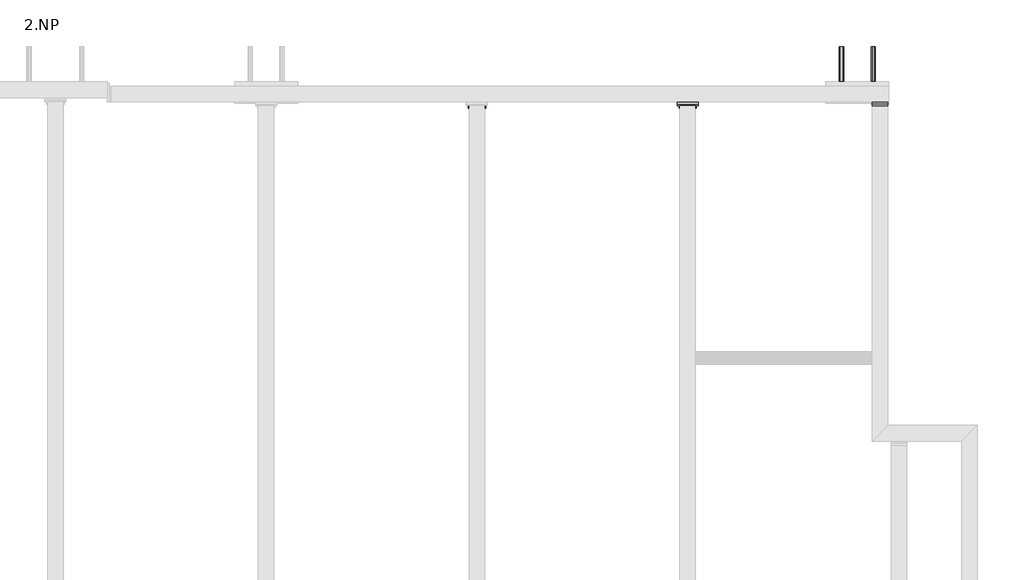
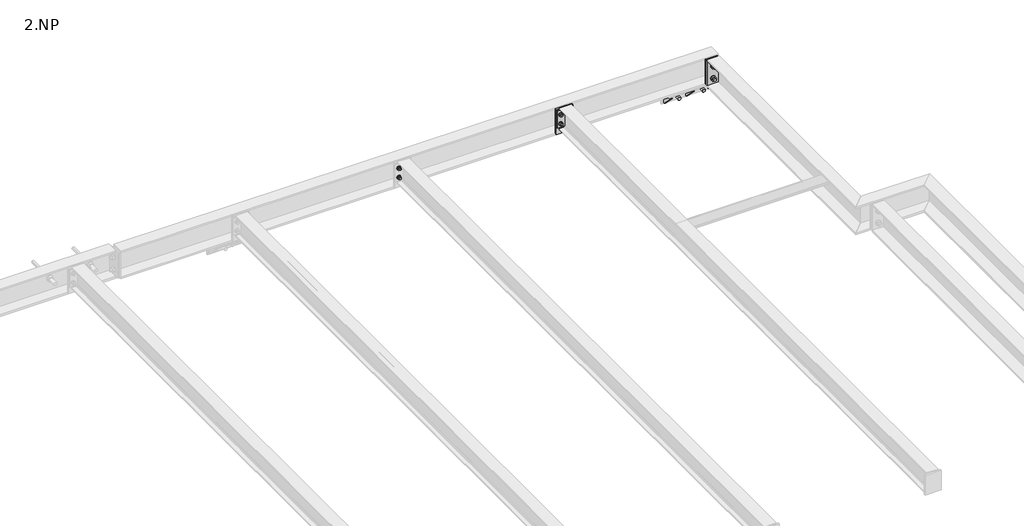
# One storey, part 15 of 18: 13 proxies.
"""IFC4 building model written with IfcOpenShell, lengths in millimetres."""

from ifc_helpers import new_model, si_unit, point, frame, frame_2d, origin, place, context, project, spatial, polyline, circle_curve, trimmed, segment, composite_curve, outline, extrude, element, save

model = new_model("IFC4")

# Units and contexts
model_context = context("Model", 3, world=origin())
ifc_project = project(units=[si_unit("LENGTHUNIT", "METRE", prefix="MILLI")], contexts=[model_context])

# Site, building, storey
site = spatial("IfcSite", under=ifc_project)
building = spatial("IfcBuilding", under=site)
storey = spatial("IfcBuildingStorey", under=building, Name="2.NP", Elevation=3000.0)

# Proxies
placement = place(None, origin())
element("IfcBuildingElementProxy", 1, Name="PLECH", ObjectType="PLECH", at=placement, inside=storey, context=model_context, shape_type="SweptSolid", body=[
    extrude(outline(polyline([(15000.0, 3755.0), (15100.0, 3755.0), (15100.0, 3747.0), (15000.0, 3747.0), (15000.0, 3755.0)])), frame((0.0, 0.0, 3175.0), z_axis=(0.0, 0.0, 1.0), x_axis=(1.0, 0.0, 0.0)), (0.0, 0.0, 1.0), 110.0),
])
element("IfcBuildingElementProxy", 2, Name="PLECH", ObjectType="PLECH", at=placement, inside=storey, context=model_context, shape_type="SweptSolid", body=[
    extrude(outline(polyline([(15925.0, 3755.0), (16000.0, 3755.0), (16000.0, 3745.0), (15925.0, 3745.0), (15925.0, 3755.0)])), frame((0.0, 0.0, 3130.0), z_axis=(0.0, 0.0, 1.0), x_axis=(1.0, 0.0, 0.0)), (0.0, 0.0, 1.0), 160.0),
])
element("IfcBuildingElementProxy", 3, Name="PLECH", ObjectType="PLECH", at=placement, inside=storey, context=model_context, shape_type="SweptSolid", body=[
    extrude(outline(composite_curve([segment(polyline([(3770.0, 3110.0), (3835.0, 3110.0)]), True, "CONTINUOUS"), segment(trimmed(circle_curve(frame_2d((3850.0, 3110.0)), 15.0), [point((3835.0, 3110.0))], [point((3850.0, 3095.0))], True, "CARTESIAN"), True, "CONTINUOUS"), segment(polyline([(3850.0, 3095.0), (3850.0, 3030.0), (3840.0, 3030.0), (3770.0, 3100.0), (3770.0, 3110.0)]), True, "CONTINUOUS")], self_intersect=False)), frame((15715.0, 0.0, 0.0), z_axis=(1.0, 0.0, 0.0), x_axis=(0.0, 1.0, 0.0)), (0.0, 0.0, 1.0), 8.0),
])
element("IfcBuildingElementProxy", 4, Name="PLECH", ObjectType="PLECH", at=placement, inside=storey, context=model_context, shape_type="SweptSolid", body=[
    extrude(outline(composite_curve([segment(polyline([(3770.0, 3110.0), (3835.0, 3110.0)]), True, "CONTINUOUS"), segment(trimmed(circle_curve(frame_2d((3850.0, 3110.0)), 15.0), [point((3835.0, 3110.0))], [point((3850.0, 3095.0))], True, "CARTESIAN"), True, "CONTINUOUS"), segment(polyline([(3850.0, 3095.0), (3850.0, 3030.0), (3840.0, 3030.0), (3770.0, 3100.0), (3770.0, 3110.0)]), True, "CONTINUOUS")], self_intersect=False)), frame((15987.0, 0.0, 0.0), z_axis=(1.0, 0.0, 0.0), x_axis=(0.0, 1.0, 0.0)), (0.0, 0.0, 1.0), 8.0),
])
element("IfcBuildingElementProxy", 5, Name="PLECH", ObjectType="PLECH", at=placement, inside=storey, context=model_context, shape_type="SweptSolid", body=[
    extrude(outline(composite_curve([segment(polyline([(3770.0, 3110.0), (3835.0, 3110.0)]), True, "CONTINUOUS"), segment(trimmed(circle_curve(frame_2d((3850.0, 3110.0)), 15.0), [point((3835.0, 3110.0))], [point((3850.0, 3095.0))], True, "CARTESIAN"), True, "CONTINUOUS"), segment(polyline([(3850.0, 3095.0), (3850.0, 3030.0), (3840.0, 3030.0), (3770.0, 3100.0), (3770.0, 3110.0)]), True, "CONTINUOUS")], self_intersect=False)), frame((15851.0, 0.0, 0.0), z_axis=(1.0, 0.0, 0.0), x_axis=(0.0, 1.0, 0.0)), (0.0, 0.0, 1.0), 8.0),
])
element("IfcBuildingElementProxy", 6, Name="PLECH", ObjectType="PLECH", at=placement, inside=storey, context=model_context, shape_type="SweptSolid", body=[
    extrude(outline(polyline([(15000.0, 3765.0), (15100.0, 3765.0), (15100.0, 3755.0), (15000.0, 3755.0), (15000.0, 3765.0)])), frame((0.0, 0.0, 3128.0), z_axis=(0.0, 0.0, 1.0), x_axis=(1.0, 0.0, 0.0)), (0.0, 0.0, 1.0), 164.0),
])
element("IfcBuildingElementProxy", 7, Name="PLECH", ObjectType="PLECH", at=placement, inside=storey, context=model_context, shape_type="SweptSolid", body=[
    extrude(outline(composite_curve([segment(polyline([(3765.0, 3289.5), (3814.5, 3289.5)]), True, "CONTINUOUS"), segment(trimmed(circle_curve(frame_2d((3834.5, 3289.5)), 20.0), [point((3814.5, 3289.5))], [point((3834.5, 3269.5))], True, "CARTESIAN"), True, "CONTINUOUS"), segment(polyline([(3834.5, 3269.5), (3834.5, 3150.5)]), True, "CONTINUOUS"), segment(trimmed(circle_curve(frame_2d((3834.5, 3130.5)), 20.0), [point((3834.5, 3150.5))], [point((3814.5, 3130.5))], True, "CARTESIAN"), True, "CONTINUOUS"), segment(polyline([(3814.5, 3130.5), (3765.0, 3130.5), (3765.0, 3289.5)]), True, "CONTINUOUS")], self_intersect=False)), frame((15047.0, 0.0, 0.0), z_axis=(1.0, 0.0, 0.0), x_axis=(0.0, 1.0, 0.0)), (0.0, 0.0, 1.0), 6.0),
])
element("IfcBuildingElementProxy", 8, Name="PLECH", ObjectType="PLECH", at=placement, inside=storey, context=model_context, shape_type="SweptSolid", body=[
    extrude(outline(polyline([(15925.0, 3765.0), (16000.0, 3765.0), (16000.0, 3755.0), (15925.0, 3755.0), (15925.0, 3765.0)])), frame((0.0, 0.0, 3130.0), z_axis=(0.0, 0.0, 1.0), x_axis=(1.0, 0.0, 0.0)), (0.0, 0.0, 1.0), 160.0),
])
element("IfcBuildingElementProxy", 9, Name="PLECH", ObjectType="PLECH", at=placement, inside=storey, context=model_context, shape_type="SweptSolid", body=[
    extrude(outline(composite_curve([segment(polyline([(3765.0, 3289.5), (3814.5, 3289.5)]), True, "CONTINUOUS"), segment(trimmed(circle_curve(frame_2d((3834.5, 3289.5)), 20.0), [point((3814.5, 3289.5))], [point((3834.5, 3269.5))], True, "CARTESIAN"), True, "CONTINUOUS"), segment(polyline([(3834.5, 3269.5), (3834.5, 3150.5)]), True, "CONTINUOUS"), segment(trimmed(circle_curve(frame_2d((3834.5, 3130.5)), 20.0), [point((3834.5, 3150.5))], [point((3814.5, 3130.5))], True, "CARTESIAN"), True, "CONTINUOUS"), segment(polyline([(3814.5, 3130.5), (3765.0, 3130.5), (3765.0, 3289.5)]), True, "CONTINUOUS")], self_intersect=False)), frame((15986.5, 0.0, 0.0), z_axis=(1.0, 0.0, 0.0), x_axis=(0.0, 1.0, 0.0)), (0.0, 0.0, 1.0), 8.0),
])
element("IfcBuildingElementProxy", 10, Name="Bolt assembly", ObjectType="Bolt assembly", at=placement, inside=storey, context=model_context, shape_type="SweptSolid", body=[
    extrude(outline(polyline([(3070.0, 15789.8149546), (3078.5, 15784.9074773), (3078.5, 15775.0925227), (3070.0, 15770.1850454), (3061.5, 15775.0925227), (3061.5, 15784.9074773), (3070.0, 15789.8149546)])), frame((0.0, 3860.0, 0.0), z_axis=(0.0, 1.0, 0.0), x_axis=(0.0, 0.0, 1.0)), (0.0, 0.0, 1.0), 168.0),
    extrude(outline(composite_curve([segment(trimmed(circle_curve(frame_2d((3070.0, 15780.0)), 10.0), [point((3070.0, 15790.0))], [point((3070.0, 15770.0))], False, "CARTESIAN"), True, "CONTINUOUS"), segment(trimmed(circle_curve(frame_2d((3070.0, 15780.0)), 10.0), [point((3070.0, 15770.0))], [point((3070.0, 15790.0))], False, "CARTESIAN"), True, "CONTINUOUS")], self_intersect=False)), frame((0.0, 3788.0, 0.0), z_axis=(0.0, 1.0, 0.0), x_axis=(0.0, 0.0, 1.0)), (0.0, 0.0, 1.0), 72.0),
    extrude(outline(composite_curve([segment(trimmed(circle_curve(frame_2d((3070.0, 15780.0)), 18.5), [point((3070.0, 15798.5))], [point((3070.0, 15761.5))], False, "CARTESIAN"), True, "CONTINUOUS"), segment(trimmed(circle_curve(frame_2d((3070.0, 15780.0)), 18.5), [point((3070.0, 15761.5))], [point((3070.0, 15798.5))], False, "CARTESIAN"), True, "CONTINUOUS")], self_intersect=False)), frame((0.0, 3847.0, 0.0), z_axis=(0.0, 1.0, 0.0), x_axis=(0.0, 0.0, 1.0)), (0.0, 0.0, 1.0), 3.0),
    extrude(outline(polyline([(3070.0, 15797.3205081), (3085.0, 15788.660254), (3085.0, 15771.339746), (3070.0, 15762.6794919), (3055.0, 15771.339746), (3055.0, 15788.660254), (3070.0, 15797.3205081)])), frame((0.0, 3831.0, 0.0), z_axis=(0.0, 1.0, 0.0), x_axis=(0.0, 0.0, 1.0)), (0.0, 0.0, 1.0), 16.0),
    extrude(outline(composite_curve([segment(trimmed(circle_curve(frame_2d((3070.0, 15780.0)), 11.0), [point((3070.0, 15791.0))], [point((3070.0, 15769.0))], False, "CARTESIAN"), True, "CONTINUOUS"), segment(trimmed(circle_curve(frame_2d((3070.0, 15780.0)), 11.0), [point((3070.0, 15769.0))], [point((3070.0, 15791.0))], False, "CARTESIAN"), True, "CONTINUOUS")], self_intersect=False)), frame((0.0, 3849.9, 0.0), z_axis=(0.0, 1.0, 0.0), x_axis=(0.0, 0.0, 1.0)), (0.0, 0.0, 1.0), 10.1),
    extrude(outline(polyline([(3070.0, 15939.8149546), (3078.5, 15934.9074773), (3078.5, 15925.0925227), (3070.0, 15920.1850454), (3061.5, 15925.0925227), (3061.5, 15934.9074773), (3070.0, 15939.8149546)])), frame((0.0, 3860.0, 0.0), z_axis=(0.0, 1.0, 0.0), x_axis=(0.0, 0.0, 1.0)), (0.0, 0.0, 1.0), 168.0),
    extrude(outline(composite_curve([segment(trimmed(circle_curve(frame_2d((3070.0, 15930.0)), 10.0), [point((3070.0, 15940.0))], [point((3070.0, 15920.0))], False, "CARTESIAN"), True, "CONTINUOUS"), segment(trimmed(circle_curve(frame_2d((3070.0, 15930.0)), 10.0), [point((3070.0, 15920.0))], [point((3070.0, 15940.0))], False, "CARTESIAN"), True, "CONTINUOUS")], self_intersect=False)), frame((0.0, 3788.0, 0.0), z_axis=(0.0, 1.0, 0.0), x_axis=(0.0, 0.0, 1.0)), (0.0, 0.0, 1.0), 72.0),
    extrude(outline(composite_curve([segment(trimmed(circle_curve(frame_2d((3070.0, 15930.0)), 18.5), [point((3070.0, 15948.5))], [point((3070.0, 15911.5))], False, "CARTESIAN"), True, "CONTINUOUS"), segment(trimmed(circle_curve(frame_2d((3070.0, 15930.0)), 18.5), [point((3070.0, 15911.5))], [point((3070.0, 15948.5))], False, "CARTESIAN"), True, "CONTINUOUS")], self_intersect=False)), frame((0.0, 3847.0, 0.0), z_axis=(0.0, 1.0, 0.0), x_axis=(0.0, 0.0, 1.0)), (0.0, 0.0, 1.0), 3.0),
    extrude(outline(polyline([(3070.0, 15947.3205081), (3085.0, 15938.660254), (3085.0, 15921.339746), (3070.0, 15912.6794919), (3055.0, 15921.339746), (3055.0, 15938.660254), (3070.0, 15947.3205081)])), frame((0.0, 3831.0, 0.0), z_axis=(0.0, 1.0, 0.0), x_axis=(0.0, 0.0, 1.0)), (0.0, 0.0, 1.0), 16.0),
    extrude(outline(composite_curve([segment(trimmed(circle_curve(frame_2d((3070.0, 15930.0)), 11.0), [point((3070.0, 15941.0))], [point((3070.0, 15919.0))], False, "CARTESIAN"), True, "CONTINUOUS"), segment(trimmed(circle_curve(frame_2d((3070.0, 15930.0)), 11.0), [point((3070.0, 15919.0))], [point((3070.0, 15941.0))], False, "CARTESIAN"), True, "CONTINUOUS")], self_intersect=False)), frame((0.0, 3849.9, 0.0), z_axis=(0.0, 1.0, 0.0), x_axis=(0.0, 0.0, 1.0)), (0.0, 0.0, 1.0), 10.1),
])
element("IfcBuildingElementProxy", 11, Name="Bolt assembly", ObjectType="Bolt assembly", at=placement, inside=storey, context=model_context, shape_type="SweptSolid", body=[
    extrude(outline(composite_curve([segment(trimmed(circle_curve(frame_2d((3260.0, 14020.0)), 6.5), [point((3260.0, 14026.5))], [point((3260.0, 14013.5))], False, "CARTESIAN"), True, "CONTINUOUS"), segment(trimmed(circle_curve(frame_2d((3260.0, 14020.0)), 6.5), [point((3260.0, 14013.5))], [point((3260.0, 14026.5))], False, "CARTESIAN"), True, "CONTINUOUS")], self_intersect=False)), frame((0.0, 3754.9, 0.0), z_axis=(0.0, 1.0, 0.0), x_axis=(0.0, 0.0, 1.0)), (0.0, 0.0, 1.0), 10.0),
    extrude(outline(polyline([(3260.0, 14030.9696551), (3269.5, 14025.4848276), (3269.5, 14014.5151724), (3260.0, 14009.0303449), (3250.5, 14014.5151724), (3250.5, 14025.4848276), (3260.0, 14030.9696551)])), frame((0.0, 3767.5, 0.0), z_axis=(0.0, 1.0, 0.0), x_axis=(0.0, 0.0, 1.0)), (0.0, 0.0, 1.0), 7.5),
    extrude(outline(composite_curve([segment(trimmed(circle_curve(frame_2d((3260.0, 14020.0)), 6.0), [point((3260.0, 14026.0))], [point((3260.0, 14014.0))], False, "CARTESIAN"), True, "CONTINUOUS"), segment(trimmed(circle_curve(frame_2d((3260.0, 14020.0)), 6.0), [point((3260.0, 14014.0))], [point((3260.0, 14026.0))], False, "CARTESIAN"), True, "CONTINUOUS")], self_intersect=False)), frame((0.0, 3727.5, 0.0), z_axis=(0.0, 1.0, 0.0), x_axis=(0.0, 0.0, 1.0)), (0.0, 0.0, 1.0), 40.0),
    extrude(outline(composite_curve([segment(trimmed(circle_curve(frame_2d((3260.0, 14020.0)), 12.0), [point((3260.0, 14032.0))], [point((3260.0, 14008.0))], False, "CARTESIAN"), True, "CONTINUOUS"), segment(trimmed(circle_curve(frame_2d((3260.0, 14020.0)), 12.0), [point((3260.0, 14008.0))], [point((3260.0, 14032.0))], False, "CARTESIAN"), True, "CONTINUOUS")], self_intersect=False)), frame((0.0, 3765.0, 0.0), z_axis=(0.0, 1.0, 0.0), x_axis=(0.0, 0.0, 1.0)), (0.0, 0.0, 1.0), 2.5),
    extrude(outline(composite_curve([segment(trimmed(circle_curve(frame_2d((3260.0, 14020.0)), 12.0), [point((3260.0, 14032.0))], [point((3260.0, 14008.0))], False, "CARTESIAN"), True, "CONTINUOUS"), segment(trimmed(circle_curve(frame_2d((3260.0, 14020.0)), 12.0), [point((3260.0, 14008.0))], [point((3260.0, 14032.0))], False, "CARTESIAN"), True, "CONTINUOUS")], self_intersect=False)), frame((0.0, 3744.5, 0.0), z_axis=(0.0, 1.0, 0.0), x_axis=(0.0, 0.0, 1.0)), (0.0, 0.0, 1.0), 2.5),
    extrude(outline(polyline([(3260.0, 14030.9696551), (3269.5, 14025.4848276), (3269.5, 14014.5151724), (3260.0, 14009.0303449), (3250.5, 14014.5151724), (3250.5, 14025.4848276), (3260.0, 14030.9696551)])), frame((0.0, 3734.5, 0.0), z_axis=(0.0, 1.0, 0.0), x_axis=(0.0, 0.0, 1.0)), (0.0, 0.0, 1.0), 10.0),
    extrude(outline(composite_curve([segment(trimmed(circle_curve(frame_2d((3260.0, 14020.0)), 6.5), [point((3260.0, 14026.5))], [point((3260.0, 14013.5))], False, "CARTESIAN"), True, "CONTINUOUS"), segment(trimmed(circle_curve(frame_2d((3260.0, 14020.0)), 6.5), [point((3260.0, 14013.5))], [point((3260.0, 14026.5))], False, "CARTESIAN"), True, "CONTINUOUS")], self_intersect=False)), frame((0.0, 3747.0, 0.0), z_axis=(0.0, 1.0, 0.0), x_axis=(0.0, 0.0, 1.0)), (0.0, 0.0, 1.0), 8.1),
    extrude(outline(composite_curve([segment(trimmed(circle_curve(frame_2d((3260.0, 14080.0)), 6.5), [point((3260.0, 14086.5))], [point((3260.0, 14073.5))], False, "CARTESIAN"), True, "CONTINUOUS"), segment(trimmed(circle_curve(frame_2d((3260.0, 14080.0)), 6.5), [point((3260.0, 14073.5))], [point((3260.0, 14086.5))], False, "CARTESIAN"), True, "CONTINUOUS")], self_intersect=False)), frame((0.0, 3754.9, 0.0), z_axis=(0.0, 1.0, 0.0), x_axis=(0.0, 0.0, 1.0)), (0.0, 0.0, 1.0), 10.0),
    extrude(outline(polyline([(3260.0, 14090.9696551), (3269.5, 14085.4848276), (3269.5, 14074.5151724), (3260.0, 14069.0303449), (3250.5, 14074.5151724), (3250.5, 14085.4848276), (3260.0, 14090.9696551)])), frame((0.0, 3767.5, 0.0), z_axis=(0.0, 1.0, 0.0), x_axis=(0.0, 0.0, 1.0)), (0.0, 0.0, 1.0), 7.5),
    extrude(outline(composite_curve([segment(trimmed(circle_curve(frame_2d((3260.0, 14080.0)), 6.0), [point((3260.0, 14086.0))], [point((3260.0, 14074.0))], False, "CARTESIAN"), True, "CONTINUOUS"), segment(trimmed(circle_curve(frame_2d((3260.0, 14080.0)), 6.0), [point((3260.0, 14074.0))], [point((3260.0, 14086.0))], False, "CARTESIAN"), True, "CONTINUOUS")], self_intersect=False)), frame((0.0, 3727.5, 0.0), z_axis=(0.0, 1.0, 0.0), x_axis=(0.0, 0.0, 1.0)), (0.0, 0.0, 1.0), 40.0),
    extrude(outline(composite_curve([segment(trimmed(circle_curve(frame_2d((3260.0, 14080.0)), 12.0), [point((3260.0, 14092.0))], [point((3260.0, 14068.0))], False, "CARTESIAN"), True, "CONTINUOUS"), segment(trimmed(circle_curve(frame_2d((3260.0, 14080.0)), 12.0), [point((3260.0, 14068.0))], [point((3260.0, 14092.0))], False, "CARTESIAN"), True, "CONTINUOUS")], self_intersect=False)), frame((0.0, 3765.0, 0.0), z_axis=(0.0, 1.0, 0.0), x_axis=(0.0, 0.0, 1.0)), (0.0, 0.0, 1.0), 2.5),
    extrude(outline(composite_curve([segment(trimmed(circle_curve(frame_2d((3260.0, 14080.0)), 12.0), [point((3260.0, 14092.0))], [point((3260.0, 14068.0))], False, "CARTESIAN"), True, "CONTINUOUS"), segment(trimmed(circle_curve(frame_2d((3260.0, 14080.0)), 12.0), [point((3260.0, 14068.0))], [point((3260.0, 14092.0))], False, "CARTESIAN"), True, "CONTINUOUS")], self_intersect=False)), frame((0.0, 3744.5, 0.0), z_axis=(0.0, 1.0, 0.0), x_axis=(0.0, 0.0, 1.0)), (0.0, 0.0, 1.0), 2.5),
    extrude(outline(polyline([(3260.0, 14090.9696551), (3269.5, 14085.4848276), (3269.5, 14074.5151724), (3260.0, 14069.0303449), (3250.5, 14074.5151724), (3250.5, 14085.4848276), (3260.0, 14090.9696551)])), frame((0.0, 3734.5, 0.0), z_axis=(0.0, 1.0, 0.0), x_axis=(0.0, 0.0, 1.0)), (0.0, 0.0, 1.0), 10.0),
    extrude(outline(composite_curve([segment(trimmed(circle_curve(frame_2d((3260.0, 14080.0)), 6.5), [point((3260.0, 14086.5))], [point((3260.0, 14073.5))], False, "CARTESIAN"), True, "CONTINUOUS"), segment(trimmed(circle_curve(frame_2d((3260.0, 14080.0)), 6.5), [point((3260.0, 14073.5))], [point((3260.0, 14086.5))], False, "CARTESIAN"), True, "CONTINUOUS")], self_intersect=False)), frame((0.0, 3747.0, 0.0), z_axis=(0.0, 1.0, 0.0), x_axis=(0.0, 0.0, 1.0)), (0.0, 0.0, 1.0), 8.1),
    extrude(outline(composite_curve([segment(trimmed(circle_curve(frame_2d((3200.0, 14020.0)), 6.5), [point((3200.0, 14026.5))], [point((3200.0, 14013.5))], False, "CARTESIAN"), True, "CONTINUOUS"), segment(trimmed(circle_curve(frame_2d((3200.0, 14020.0)), 6.5), [point((3200.0, 14013.5))], [point((3200.0, 14026.5))], False, "CARTESIAN"), True, "CONTINUOUS")], self_intersect=False)), frame((0.0, 3754.9, 0.0), z_axis=(0.0, 1.0, 0.0), x_axis=(0.0, 0.0, 1.0)), (0.0, 0.0, 1.0), 10.0),
    extrude(outline(polyline([(3200.0, 14030.9696551), (3209.5, 14025.4848276), (3209.5, 14014.5151724), (3200.0, 14009.0303449), (3190.5, 14014.5151724), (3190.5, 14025.4848276), (3200.0, 14030.9696551)])), frame((0.0, 3767.5, 0.0), z_axis=(0.0, 1.0, 0.0), x_axis=(0.0, 0.0, 1.0)), (0.0, 0.0, 1.0), 7.5),
    extrude(outline(composite_curve([segment(trimmed(circle_curve(frame_2d((3200.0, 14020.0)), 6.0), [point((3200.0, 14026.0))], [point((3200.0, 14014.0))], False, "CARTESIAN"), True, "CONTINUOUS"), segment(trimmed(circle_curve(frame_2d((3200.0, 14020.0)), 6.0), [point((3200.0, 14014.0))], [point((3200.0, 14026.0))], False, "CARTESIAN"), True, "CONTINUOUS")], self_intersect=False)), frame((0.0, 3727.5, 0.0), z_axis=(0.0, 1.0, 0.0), x_axis=(0.0, 0.0, 1.0)), (0.0, 0.0, 1.0), 40.0),
    extrude(outline(composite_curve([segment(trimmed(circle_curve(frame_2d((3200.0, 14020.0)), 12.0), [point((3200.0, 14032.0))], [point((3200.0, 14008.0))], False, "CARTESIAN"), True, "CONTINUOUS"), segment(trimmed(circle_curve(frame_2d((3200.0, 14020.0)), 12.0), [point((3200.0, 14008.0))], [point((3200.0, 14032.0))], False, "CARTESIAN"), True, "CONTINUOUS")], self_intersect=False)), frame((0.0, 3765.0, 0.0), z_axis=(0.0, 1.0, 0.0), x_axis=(0.0, 0.0, 1.0)), (0.0, 0.0, 1.0), 2.5),
    extrude(outline(composite_curve([segment(trimmed(circle_curve(frame_2d((3200.0, 14020.0)), 12.0), [point((3200.0, 14032.0))], [point((3200.0, 14008.0))], False, "CARTESIAN"), True, "CONTINUOUS"), segment(trimmed(circle_curve(frame_2d((3200.0, 14020.0)), 12.0), [point((3200.0, 14008.0))], [point((3200.0, 14032.0))], False, "CARTESIAN"), True, "CONTINUOUS")], self_intersect=False)), frame((0.0, 3744.5, 0.0), z_axis=(0.0, 1.0, 0.0), x_axis=(0.0, 0.0, 1.0)), (0.0, 0.0, 1.0), 2.5),
    extrude(outline(polyline([(3200.0, 14030.9696551), (3209.5, 14025.4848276), (3209.5, 14014.5151724), (3200.0, 14009.0303449), (3190.5, 14014.5151724), (3190.5, 14025.4848276), (3200.0, 14030.9696551)])), frame((0.0, 3734.5, 0.0), z_axis=(0.0, 1.0, 0.0), x_axis=(0.0, 0.0, 1.0)), (0.0, 0.0, 1.0), 10.0),
    extrude(outline(composite_curve([segment(trimmed(circle_curve(frame_2d((3200.0, 14020.0)), 6.5), [point((3200.0, 14026.5))], [point((3200.0, 14013.5))], False, "CARTESIAN"), True, "CONTINUOUS"), segment(trimmed(circle_curve(frame_2d((3200.0, 14020.0)), 6.5), [point((3200.0, 14013.5))], [point((3200.0, 14026.5))], False, "CARTESIAN"), True, "CONTINUOUS")], self_intersect=False)), frame((0.0, 3747.0, 0.0), z_axis=(0.0, 1.0, 0.0), x_axis=(0.0, 0.0, 1.0)), (0.0, 0.0, 1.0), 8.1),
    extrude(outline(composite_curve([segment(trimmed(circle_curve(frame_2d((3200.0, 14080.0)), 6.5), [point((3200.0, 14086.5))], [point((3200.0, 14073.5))], False, "CARTESIAN"), True, "CONTINUOUS"), segment(trimmed(circle_curve(frame_2d((3200.0, 14080.0)), 6.5), [point((3200.0, 14073.5))], [point((3200.0, 14086.5))], False, "CARTESIAN"), True, "CONTINUOUS")], self_intersect=False)), frame((0.0, 3754.9, 0.0), z_axis=(0.0, 1.0, 0.0), x_axis=(0.0, 0.0, 1.0)), (0.0, 0.0, 1.0), 10.0),
    extrude(outline(polyline([(3200.0, 14090.9696551), (3209.5, 14085.4848276), (3209.5, 14074.5151724), (3200.0, 14069.0303449), (3190.5, 14074.5151724), (3190.5, 14085.4848276), (3200.0, 14090.9696551)])), frame((0.0, 3767.5, 0.0), z_axis=(0.0, 1.0, 0.0), x_axis=(0.0, 0.0, 1.0)), (0.0, 0.0, 1.0), 7.5),
    extrude(outline(composite_curve([segment(trimmed(circle_curve(frame_2d((3200.0, 14080.0)), 6.0), [point((3200.0, 14086.0))], [point((3200.0, 14074.0))], False, "CARTESIAN"), True, "CONTINUOUS"), segment(trimmed(circle_curve(frame_2d((3200.0, 14080.0)), 6.0), [point((3200.0, 14074.0))], [point((3200.0, 14086.0))], False, "CARTESIAN"), True, "CONTINUOUS")], self_intersect=False)), frame((0.0, 3727.5, 0.0), z_axis=(0.0, 1.0, 0.0), x_axis=(0.0, 0.0, 1.0)), (0.0, 0.0, 1.0), 40.0),
    extrude(outline(composite_curve([segment(trimmed(circle_curve(frame_2d((3200.0, 14080.0)), 12.0), [point((3200.0, 14092.0))], [point((3200.0, 14068.0))], False, "CARTESIAN"), True, "CONTINUOUS"), segment(trimmed(circle_curve(frame_2d((3200.0, 14080.0)), 12.0), [point((3200.0, 14068.0))], [point((3200.0, 14092.0))], False, "CARTESIAN"), True, "CONTINUOUS")], self_intersect=False)), frame((0.0, 3765.0, 0.0), z_axis=(0.0, 1.0, 0.0), x_axis=(0.0, 0.0, 1.0)), (0.0, 0.0, 1.0), 2.5),
    extrude(outline(composite_curve([segment(trimmed(circle_curve(frame_2d((3200.0, 14080.0)), 12.0), [point((3200.0, 14092.0))], [point((3200.0, 14068.0))], False, "CARTESIAN"), True, "CONTINUOUS"), segment(trimmed(circle_curve(frame_2d((3200.0, 14080.0)), 12.0), [point((3200.0, 14068.0))], [point((3200.0, 14092.0))], False, "CARTESIAN"), True, "CONTINUOUS")], self_intersect=False)), frame((0.0, 3744.5, 0.0), z_axis=(0.0, 1.0, 0.0), x_axis=(0.0, 0.0, 1.0)), (0.0, 0.0, 1.0), 2.5),
    extrude(outline(polyline([(3200.0, 14090.9696551), (3209.5, 14085.4848276), (3209.5, 14074.5151724), (3200.0, 14069.0303449), (3190.5, 14074.5151724), (3190.5, 14085.4848276), (3200.0, 14090.9696551)])), frame((0.0, 3734.5, 0.0), z_axis=(0.0, 1.0, 0.0), x_axis=(0.0, 0.0, 1.0)), (0.0, 0.0, 1.0), 10.0),
    extrude(outline(composite_curve([segment(trimmed(circle_curve(frame_2d((3200.0, 14080.0)), 6.5), [point((3200.0, 14086.5))], [point((3200.0, 14073.5))], False, "CARTESIAN"), True, "CONTINUOUS"), segment(trimmed(circle_curve(frame_2d((3200.0, 14080.0)), 6.5), [point((3200.0, 14073.5))], [point((3200.0, 14086.5))], False, "CARTESIAN"), True, "CONTINUOUS")], self_intersect=False)), frame((0.0, 3747.0, 0.0), z_axis=(0.0, 1.0, 0.0), x_axis=(0.0, 0.0, 1.0)), (0.0, 0.0, 1.0), 8.1),
])
element("IfcBuildingElementProxy", 12, Name="Bolt assembly", ObjectType="Bolt assembly", at=placement, inside=storey, context=model_context, shape_type="SweptSolid", body=[
    extrude(outline(composite_curve([segment(trimmed(circle_curve(frame_2d((3260.0, 15020.0)), 6.5), [point((3260.0, 15026.5))], [point((3260.0, 15013.5))], False, "CARTESIAN"), True, "CONTINUOUS"), segment(trimmed(circle_curve(frame_2d((3260.0, 15020.0)), 6.5), [point((3260.0, 15013.5))], [point((3260.0, 15026.5))], False, "CARTESIAN"), True, "CONTINUOUS")], self_intersect=False)), frame((0.0, 3754.9, 0.0), z_axis=(0.0, 1.0, 0.0), x_axis=(0.0, 0.0, 1.0)), (0.0, 0.0, 1.0), 10.0),
    extrude(outline(polyline([(3260.0, 15030.9696551), (3269.5, 15025.4848276), (3269.5, 15014.5151724), (3260.0, 15009.0303449), (3250.5, 15014.5151724), (3250.5, 15025.4848276), (3260.0, 15030.9696551)])), frame((0.0, 3767.5, 0.0), z_axis=(0.0, 1.0, 0.0), x_axis=(0.0, 0.0, 1.0)), (0.0, 0.0, 1.0), 7.5),
    extrude(outline(composite_curve([segment(trimmed(circle_curve(frame_2d((3260.0, 15020.0)), 6.0), [point((3260.0, 15026.0))], [point((3260.0, 15014.0))], False, "CARTESIAN"), True, "CONTINUOUS"), segment(trimmed(circle_curve(frame_2d((3260.0, 15020.0)), 6.0), [point((3260.0, 15014.0))], [point((3260.0, 15026.0))], False, "CARTESIAN"), True, "CONTINUOUS")], self_intersect=False)), frame((0.0, 3727.5, 0.0), z_axis=(0.0, 1.0, 0.0), x_axis=(0.0, 0.0, 1.0)), (0.0, 0.0, 1.0), 40.0),
    extrude(outline(composite_curve([segment(trimmed(circle_curve(frame_2d((3260.0, 15020.0)), 12.0), [point((3260.0, 15032.0))], [point((3260.0, 15008.0))], False, "CARTESIAN"), True, "CONTINUOUS"), segment(trimmed(circle_curve(frame_2d((3260.0, 15020.0)), 12.0), [point((3260.0, 15008.0))], [point((3260.0, 15032.0))], False, "CARTESIAN"), True, "CONTINUOUS")], self_intersect=False)), frame((0.0, 3765.0, 0.0), z_axis=(0.0, 1.0, 0.0), x_axis=(0.0, 0.0, 1.0)), (0.0, 0.0, 1.0), 2.5),
    extrude(outline(composite_curve([segment(trimmed(circle_curve(frame_2d((3260.0, 15020.0)), 12.0), [point((3260.0, 15032.0))], [point((3260.0, 15008.0))], False, "CARTESIAN"), True, "CONTINUOUS"), segment(trimmed(circle_curve(frame_2d((3260.0, 15020.0)), 12.0), [point((3260.0, 15008.0))], [point((3260.0, 15032.0))], False, "CARTESIAN"), True, "CONTINUOUS")], self_intersect=False)), frame((0.0, 3744.5, 0.0), z_axis=(0.0, 1.0, 0.0), x_axis=(0.0, 0.0, 1.0)), (0.0, 0.0, 1.0), 2.5),
    extrude(outline(polyline([(3260.0, 15030.9696551), (3269.5, 15025.4848276), (3269.5, 15014.5151724), (3260.0, 15009.0303449), (3250.5, 15014.5151724), (3250.5, 15025.4848276), (3260.0, 15030.9696551)])), frame((0.0, 3734.5, 0.0), z_axis=(0.0, 1.0, 0.0), x_axis=(0.0, 0.0, 1.0)), (0.0, 0.0, 1.0), 10.0),
    extrude(outline(composite_curve([segment(trimmed(circle_curve(frame_2d((3260.0, 15020.0)), 6.5), [point((3260.0, 15026.5))], [point((3260.0, 15013.5))], False, "CARTESIAN"), True, "CONTINUOUS"), segment(trimmed(circle_curve(frame_2d((3260.0, 15020.0)), 6.5), [point((3260.0, 15013.5))], [point((3260.0, 15026.5))], False, "CARTESIAN"), True, "CONTINUOUS")], self_intersect=False)), frame((0.0, 3747.0, 0.0), z_axis=(0.0, 1.0, 0.0), x_axis=(0.0, 0.0, 1.0)), (0.0, 0.0, 1.0), 8.1),
    extrude(outline(composite_curve([segment(trimmed(circle_curve(frame_2d((3260.0, 15080.0)), 6.5), [point((3260.0, 15086.5))], [point((3260.0, 15073.5))], False, "CARTESIAN"), True, "CONTINUOUS"), segment(trimmed(circle_curve(frame_2d((3260.0, 15080.0)), 6.5), [point((3260.0, 15073.5))], [point((3260.0, 15086.5))], False, "CARTESIAN"), True, "CONTINUOUS")], self_intersect=False)), frame((0.0, 3754.9, 0.0), z_axis=(0.0, 1.0, 0.0), x_axis=(0.0, 0.0, 1.0)), (0.0, 0.0, 1.0), 10.0),
    extrude(outline(polyline([(3260.0, 15090.9696551), (3269.5, 15085.4848276), (3269.5, 15074.5151724), (3260.0, 15069.0303449), (3250.5, 15074.5151724), (3250.5, 15085.4848276), (3260.0, 15090.9696551)])), frame((0.0, 3767.5, 0.0), z_axis=(0.0, 1.0, 0.0), x_axis=(0.0, 0.0, 1.0)), (0.0, 0.0, 1.0), 7.5),
    extrude(outline(composite_curve([segment(trimmed(circle_curve(frame_2d((3260.0, 15080.0)), 6.0), [point((3260.0, 15086.0))], [point((3260.0, 15074.0))], False, "CARTESIAN"), True, "CONTINUOUS"), segment(trimmed(circle_curve(frame_2d((3260.0, 15080.0)), 6.0), [point((3260.0, 15074.0))], [point((3260.0, 15086.0))], False, "CARTESIAN"), True, "CONTINUOUS")], self_intersect=False)), frame((0.0, 3727.5, 0.0), z_axis=(0.0, 1.0, 0.0), x_axis=(0.0, 0.0, 1.0)), (0.0, 0.0, 1.0), 40.0),
    extrude(outline(composite_curve([segment(trimmed(circle_curve(frame_2d((3260.0, 15080.0)), 12.0), [point((3260.0, 15092.0))], [point((3260.0, 15068.0))], False, "CARTESIAN"), True, "CONTINUOUS"), segment(trimmed(circle_curve(frame_2d((3260.0, 15080.0)), 12.0), [point((3260.0, 15068.0))], [point((3260.0, 15092.0))], False, "CARTESIAN"), True, "CONTINUOUS")], self_intersect=False)), frame((0.0, 3765.0, 0.0), z_axis=(0.0, 1.0, 0.0), x_axis=(0.0, 0.0, 1.0)), (0.0, 0.0, 1.0), 2.5),
    extrude(outline(composite_curve([segment(trimmed(circle_curve(frame_2d((3260.0, 15080.0)), 12.0), [point((3260.0, 15092.0))], [point((3260.0, 15068.0))], False, "CARTESIAN"), True, "CONTINUOUS"), segment(trimmed(circle_curve(frame_2d((3260.0, 15080.0)), 12.0), [point((3260.0, 15068.0))], [point((3260.0, 15092.0))], False, "CARTESIAN"), True, "CONTINUOUS")], self_intersect=False)), frame((0.0, 3744.5, 0.0), z_axis=(0.0, 1.0, 0.0), x_axis=(0.0, 0.0, 1.0)), (0.0, 0.0, 1.0), 2.5),
    extrude(outline(polyline([(3260.0, 15090.9696551), (3269.5, 15085.4848276), (3269.5, 15074.5151724), (3260.0, 15069.0303449), (3250.5, 15074.5151724), (3250.5, 15085.4848276), (3260.0, 15090.9696551)])), frame((0.0, 3734.5, 0.0), z_axis=(0.0, 1.0, 0.0), x_axis=(0.0, 0.0, 1.0)), (0.0, 0.0, 1.0), 10.0),
    extrude(outline(composite_curve([segment(trimmed(circle_curve(frame_2d((3260.0, 15080.0)), 6.5), [point((3260.0, 15086.5))], [point((3260.0, 15073.5))], False, "CARTESIAN"), True, "CONTINUOUS"), segment(trimmed(circle_curve(frame_2d((3260.0, 15080.0)), 6.5), [point((3260.0, 15073.5))], [point((3260.0, 15086.5))], False, "CARTESIAN"), True, "CONTINUOUS")], self_intersect=False)), frame((0.0, 3747.0, 0.0), z_axis=(0.0, 1.0, 0.0), x_axis=(0.0, 0.0, 1.0)), (0.0, 0.0, 1.0), 8.1),
    extrude(outline(composite_curve([segment(trimmed(circle_curve(frame_2d((3200.0, 15020.0)), 6.5), [point((3200.0, 15026.5))], [point((3200.0, 15013.5))], False, "CARTESIAN"), True, "CONTINUOUS"), segment(trimmed(circle_curve(frame_2d((3200.0, 15020.0)), 6.5), [point((3200.0, 15013.5))], [point((3200.0, 15026.5))], False, "CARTESIAN"), True, "CONTINUOUS")], self_intersect=False)), frame((0.0, 3754.9, 0.0), z_axis=(0.0, 1.0, 0.0), x_axis=(0.0, 0.0, 1.0)), (0.0, 0.0, 1.0), 10.0),
    extrude(outline(polyline([(3200.0, 15030.9696551), (3209.5, 15025.4848276), (3209.5, 15014.5151724), (3200.0, 15009.0303449), (3190.5, 15014.5151724), (3190.5, 15025.4848276), (3200.0, 15030.9696551)])), frame((0.0, 3767.5, 0.0), z_axis=(0.0, 1.0, 0.0), x_axis=(0.0, 0.0, 1.0)), (0.0, 0.0, 1.0), 7.5),
    extrude(outline(composite_curve([segment(trimmed(circle_curve(frame_2d((3200.0, 15020.0)), 6.0), [point((3200.0, 15026.0))], [point((3200.0, 15014.0))], False, "CARTESIAN"), True, "CONTINUOUS"), segment(trimmed(circle_curve(frame_2d((3200.0, 15020.0)), 6.0), [point((3200.0, 15014.0))], [point((3200.0, 15026.0))], False, "CARTESIAN"), True, "CONTINUOUS")], self_intersect=False)), frame((0.0, 3727.5, 0.0), z_axis=(0.0, 1.0, 0.0), x_axis=(0.0, 0.0, 1.0)), (0.0, 0.0, 1.0), 40.0),
    extrude(outline(composite_curve([segment(trimmed(circle_curve(frame_2d((3200.0, 15020.0)), 12.0), [point((3200.0, 15032.0))], [point((3200.0, 15008.0))], False, "CARTESIAN"), True, "CONTINUOUS"), segment(trimmed(circle_curve(frame_2d((3200.0, 15020.0)), 12.0), [point((3200.0, 15008.0))], [point((3200.0, 15032.0))], False, "CARTESIAN"), True, "CONTINUOUS")], self_intersect=False)), frame((0.0, 3765.0, 0.0), z_axis=(0.0, 1.0, 0.0), x_axis=(0.0, 0.0, 1.0)), (0.0, 0.0, 1.0), 2.5),
    extrude(outline(composite_curve([segment(trimmed(circle_curve(frame_2d((3200.0, 15020.0)), 12.0), [point((3200.0, 15032.0))], [point((3200.0, 15008.0))], False, "CARTESIAN"), True, "CONTINUOUS"), segment(trimmed(circle_curve(frame_2d((3200.0, 15020.0)), 12.0), [point((3200.0, 15008.0))], [point((3200.0, 15032.0))], False, "CARTESIAN"), True, "CONTINUOUS")], self_intersect=False)), frame((0.0, 3744.5, 0.0), z_axis=(0.0, 1.0, 0.0), x_axis=(0.0, 0.0, 1.0)), (0.0, 0.0, 1.0), 2.5),
    extrude(outline(polyline([(3200.0, 15030.9696551), (3209.5, 15025.4848276), (3209.5, 15014.5151724), (3200.0, 15009.0303449), (3190.5, 15014.5151724), (3190.5, 15025.4848276), (3200.0, 15030.9696551)])), frame((0.0, 3734.5, 0.0), z_axis=(0.0, 1.0, 0.0), x_axis=(0.0, 0.0, 1.0)), (0.0, 0.0, 1.0), 10.0),
    extrude(outline(composite_curve([segment(trimmed(circle_curve(frame_2d((3200.0, 15020.0)), 6.5), [point((3200.0, 15026.5))], [point((3200.0, 15013.5))], False, "CARTESIAN"), True, "CONTINUOUS"), segment(trimmed(circle_curve(frame_2d((3200.0, 15020.0)), 6.5), [point((3200.0, 15013.5))], [point((3200.0, 15026.5))], False, "CARTESIAN"), True, "CONTINUOUS")], self_intersect=False)), frame((0.0, 3747.0, 0.0), z_axis=(0.0, 1.0, 0.0), x_axis=(0.0, 0.0, 1.0)), (0.0, 0.0, 1.0), 8.1),
    extrude(outline(composite_curve([segment(trimmed(circle_curve(frame_2d((3200.0, 15080.0)), 6.5), [point((3200.0, 15086.5))], [point((3200.0, 15073.5))], False, "CARTESIAN"), True, "CONTINUOUS"), segment(trimmed(circle_curve(frame_2d((3200.0, 15080.0)), 6.5), [point((3200.0, 15073.5))], [point((3200.0, 15086.5))], False, "CARTESIAN"), True, "CONTINUOUS")], self_intersect=False)), frame((0.0, 3754.9, 0.0), z_axis=(0.0, 1.0, 0.0), x_axis=(0.0, 0.0, 1.0)), (0.0, 0.0, 1.0), 10.0),
    extrude(outline(polyline([(3200.0, 15090.9696551), (3209.5, 15085.4848276), (3209.5, 15074.5151724), (3200.0, 15069.0303449), (3190.5, 15074.5151724), (3190.5, 15085.4848276), (3200.0, 15090.9696551)])), frame((0.0, 3767.5, 0.0), z_axis=(0.0, 1.0, 0.0), x_axis=(0.0, 0.0, 1.0)), (0.0, 0.0, 1.0), 7.5),
    extrude(outline(composite_curve([segment(trimmed(circle_curve(frame_2d((3200.0, 15080.0)), 6.0), [point((3200.0, 15086.0))], [point((3200.0, 15074.0))], False, "CARTESIAN"), True, "CONTINUOUS"), segment(trimmed(circle_curve(frame_2d((3200.0, 15080.0)), 6.0), [point((3200.0, 15074.0))], [point((3200.0, 15086.0))], False, "CARTESIAN"), True, "CONTINUOUS")], self_intersect=False)), frame((0.0, 3727.5, 0.0), z_axis=(0.0, 1.0, 0.0), x_axis=(0.0, 0.0, 1.0)), (0.0, 0.0, 1.0), 40.0),
    extrude(outline(composite_curve([segment(trimmed(circle_curve(frame_2d((3200.0, 15080.0)), 12.0), [point((3200.0, 15092.0))], [point((3200.0, 15068.0))], False, "CARTESIAN"), True, "CONTINUOUS"), segment(trimmed(circle_curve(frame_2d((3200.0, 15080.0)), 12.0), [point((3200.0, 15068.0))], [point((3200.0, 15092.0))], False, "CARTESIAN"), True, "CONTINUOUS")], self_intersect=False)), frame((0.0, 3765.0, 0.0), z_axis=(0.0, 1.0, 0.0), x_axis=(0.0, 0.0, 1.0)), (0.0, 0.0, 1.0), 2.5),
    extrude(outline(composite_curve([segment(trimmed(circle_curve(frame_2d((3200.0, 15080.0)), 12.0), [point((3200.0, 15092.0))], [point((3200.0, 15068.0))], False, "CARTESIAN"), True, "CONTINUOUS"), segment(trimmed(circle_curve(frame_2d((3200.0, 15080.0)), 12.0), [point((3200.0, 15068.0))], [point((3200.0, 15092.0))], False, "CARTESIAN"), True, "CONTINUOUS")], self_intersect=False)), frame((0.0, 3744.5, 0.0), z_axis=(0.0, 1.0, 0.0), x_axis=(0.0, 0.0, 1.0)), (0.0, 0.0, 1.0), 2.5),
    extrude(outline(polyline([(3200.0, 15090.9696551), (3209.5, 15085.4848276), (3209.5, 15074.5151724), (3200.0, 15069.0303449), (3190.5, 15074.5151724), (3190.5, 15085.4848276), (3200.0, 15090.9696551)])), frame((0.0, 3734.5, 0.0), z_axis=(0.0, 1.0, 0.0), x_axis=(0.0, 0.0, 1.0)), (0.0, 0.0, 1.0), 10.0),
    extrude(outline(composite_curve([segment(trimmed(circle_curve(frame_2d((3200.0, 15080.0)), 6.5), [point((3200.0, 15086.5))], [point((3200.0, 15073.5))], False, "CARTESIAN"), True, "CONTINUOUS"), segment(trimmed(circle_curve(frame_2d((3200.0, 15080.0)), 6.5), [point((3200.0, 15073.5))], [point((3200.0, 15086.5))], False, "CARTESIAN"), True, "CONTINUOUS")], self_intersect=False)), frame((0.0, 3747.0, 0.0), z_axis=(0.0, 1.0, 0.0), x_axis=(0.0, 0.0, 1.0)), (0.0, 0.0, 1.0), 8.1),
])
element("IfcBuildingElementProxy", 13, Name="Bolt assembly", ObjectType="Bolt assembly", at=placement, inside=storey, context=model_context, shape_type="SweptSolid", body=[
    extrude(outline(composite_curve([segment(trimmed(circle_curve(frame_2d((3170.0, 15960.0)), 9.0), [point((3170.0, 15969.0))], [point((3170.0, 15951.0))], False, "CARTESIAN"), True, "CONTINUOUS"), segment(trimmed(circle_curve(frame_2d((3170.0, 15960.0)), 9.0), [point((3170.0, 15951.0))], [point((3170.0, 15969.0))], False, "CARTESIAN"), True, "CONTINUOUS")], self_intersect=False)), frame((0.0, 3754.9, 0.0), z_axis=(0.0, 1.0, 0.0), x_axis=(0.0, 0.0, 1.0)), (0.0, 0.0, 1.0), 10.0),
    extrude(outline(polyline([(3170.0, 15973.8564065), (3182.0, 15966.9282032), (3182.0, 15953.0717968), (3170.0, 15946.1435935), (3158.0, 15953.0717968), (3158.0, 15966.9282032), (3170.0, 15973.8564065)])), frame((0.0, 3768.0, 0.0), z_axis=(0.0, 1.0, 0.0), x_axis=(0.0, 0.0, 1.0)), (0.0, 0.0, 1.0), 10.0),
    extrude(outline(composite_curve([segment(trimmed(circle_curve(frame_2d((3170.0, 15960.0)), 8.0), [point((3170.0, 15968.0))], [point((3170.0, 15952.0))], False, "CARTESIAN"), True, "CONTINUOUS"), segment(trimmed(circle_curve(frame_2d((3170.0, 15960.0)), 8.0), [point((3170.0, 15952.0))], [point((3170.0, 15968.0))], False, "CARTESIAN"), True, "CONTINUOUS")], self_intersect=False)), frame((0.0, 3718.0, 0.0), z_axis=(0.0, 1.0, 0.0), x_axis=(0.0, 0.0, 1.0)), (0.0, 0.0, 1.0), 50.0),
    extrude(outline(composite_curve([segment(trimmed(circle_curve(frame_2d((3170.0, 15960.0)), 15.0), [point((3170.0, 15975.0))], [point((3170.0, 15945.0))], False, "CARTESIAN"), True, "CONTINUOUS"), segment(trimmed(circle_curve(frame_2d((3170.0, 15960.0)), 15.0), [point((3170.0, 15945.0))], [point((3170.0, 15975.0))], False, "CARTESIAN"), True, "CONTINUOUS")], self_intersect=False)), frame((0.0, 3765.0, 0.0), z_axis=(0.0, 1.0, 0.0), x_axis=(0.0, 0.0, 1.0)), (0.0, 0.0, 1.0), 3.0),
    extrude(outline(composite_curve([segment(trimmed(circle_curve(frame_2d((3170.0, 15960.0)), 15.0), [point((3170.0, 15975.0))], [point((3170.0, 15945.0))], False, "CARTESIAN"), True, "CONTINUOUS"), segment(trimmed(circle_curve(frame_2d((3170.0, 15960.0)), 15.0), [point((3170.0, 15945.0))], [point((3170.0, 15975.0))], False, "CARTESIAN"), True, "CONTINUOUS")], self_intersect=False)), frame((0.0, 3742.0, 0.0), z_axis=(0.0, 1.0, 0.0), x_axis=(0.0, 0.0, 1.0)), (0.0, 0.0, 1.0), 3.0),
    extrude(outline(polyline([(3170.0, 15975.4441197), (3183.375, 15967.7220599), (3183.375, 15952.2779401), (3170.0, 15944.5558803), (3156.625, 15952.2779401), (3156.625, 15967.7220599), (3170.0, 15975.4441197)])), frame((0.0, 3729.0, 0.0), z_axis=(0.0, 1.0, 0.0), x_axis=(0.0, 0.0, 1.0)), (0.0, 0.0, 1.0), 13.0),
    extrude(outline(composite_curve([segment(trimmed(circle_curve(frame_2d((3170.0, 15960.0)), 9.0), [point((3170.0, 15969.0))], [point((3170.0, 15951.0))], False, "CARTESIAN"), True, "CONTINUOUS"), segment(trimmed(circle_curve(frame_2d((3170.0, 15960.0)), 9.0), [point((3170.0, 15951.0))], [point((3170.0, 15969.0))], False, "CARTESIAN"), True, "CONTINUOUS")], self_intersect=False)), frame((0.0, 3745.0, 0.0), z_axis=(0.0, 1.0, 0.0), x_axis=(0.0, 0.0, 1.0)), (0.0, 0.0, 1.0), 10.1),
    extrude(outline(composite_curve([segment(trimmed(circle_curve(frame_2d((3250.0, 15960.0)), 9.0), [point((3250.0, 15969.0))], [point((3250.0, 15951.0))], False, "CARTESIAN"), True, "CONTINUOUS"), segment(trimmed(circle_curve(frame_2d((3250.0, 15960.0)), 9.0), [point((3250.0, 15951.0))], [point((3250.0, 15969.0))], False, "CARTESIAN"), True, "CONTINUOUS")], self_intersect=False)), frame((0.0, 3754.9, 0.0), z_axis=(0.0, 1.0, 0.0), x_axis=(0.0, 0.0, 1.0)), (0.0, 0.0, 1.0), 10.0),
    extrude(outline(polyline([(3250.0, 15973.8564065), (3262.0, 15966.9282032), (3262.0, 15953.0717968), (3250.0, 15946.1435935), (3238.0, 15953.0717968), (3238.0, 15966.9282032), (3250.0, 15973.8564065)])), frame((0.0, 3768.0, 0.0), z_axis=(0.0, 1.0, 0.0), x_axis=(0.0, 0.0, 1.0)), (0.0, 0.0, 1.0), 10.0),
    extrude(outline(composite_curve([segment(trimmed(circle_curve(frame_2d((3250.0, 15960.0)), 8.0), [point((3250.0, 15968.0))], [point((3250.0, 15952.0))], False, "CARTESIAN"), True, "CONTINUOUS"), segment(trimmed(circle_curve(frame_2d((3250.0, 15960.0)), 8.0), [point((3250.0, 15952.0))], [point((3250.0, 15968.0))], False, "CARTESIAN"), True, "CONTINUOUS")], self_intersect=False)), frame((0.0, 3718.0, 0.0), z_axis=(0.0, 1.0, 0.0), x_axis=(0.0, 0.0, 1.0)), (0.0, 0.0, 1.0), 50.0),
    extrude(outline(composite_curve([segment(trimmed(circle_curve(frame_2d((3250.0, 15960.0)), 15.0), [point((3250.0, 15975.0))], [point((3250.0, 15945.0))], False, "CARTESIAN"), True, "CONTINUOUS"), segment(trimmed(circle_curve(frame_2d((3250.0, 15960.0)), 15.0), [point((3250.0, 15945.0))], [point((3250.0, 15975.0))], False, "CARTESIAN"), True, "CONTINUOUS")], self_intersect=False)), frame((0.0, 3765.0, 0.0), z_axis=(0.0, 1.0, 0.0), x_axis=(0.0, 0.0, 1.0)), (0.0, 0.0, 1.0), 3.0),
    extrude(outline(composite_curve([segment(trimmed(circle_curve(frame_2d((3250.0, 15960.0)), 15.0), [point((3250.0, 15975.0))], [point((3250.0, 15945.0))], False, "CARTESIAN"), True, "CONTINUOUS"), segment(trimmed(circle_curve(frame_2d((3250.0, 15960.0)), 15.0), [point((3250.0, 15945.0))], [point((3250.0, 15975.0))], False, "CARTESIAN"), True, "CONTINUOUS")], self_intersect=False)), frame((0.0, 3742.0, 0.0), z_axis=(0.0, 1.0, 0.0), x_axis=(0.0, 0.0, 1.0)), (0.0, 0.0, 1.0), 3.0),
    extrude(outline(polyline([(3250.0, 15975.4441197), (3263.375, 15967.7220599), (3263.375, 15952.2779401), (3250.0, 15944.5558803), (3236.625, 15952.2779401), (3236.625, 15967.7220599), (3250.0, 15975.4441197)])), frame((0.0, 3729.0, 0.0), z_axis=(0.0, 1.0, 0.0), x_axis=(0.0, 0.0, 1.0)), (0.0, 0.0, 1.0), 13.0),
    extrude(outline(composite_curve([segment(trimmed(circle_curve(frame_2d((3250.0, 15960.0)), 9.0), [point((3250.0, 15969.0))], [point((3250.0, 15951.0))], False, "CARTESIAN"), True, "CONTINUOUS"), segment(trimmed(circle_curve(frame_2d((3250.0, 15960.0)), 9.0), [point((3250.0, 15951.0))], [point((3250.0, 15969.0))], False, "CARTESIAN"), True, "CONTINUOUS")], self_intersect=False)), frame((0.0, 3745.0, 0.0), z_axis=(0.0, 1.0, 0.0), x_axis=(0.0, 0.0, 1.0)), (0.0, 0.0, 1.0), 10.1),
])

save(model, "model.ifc")
